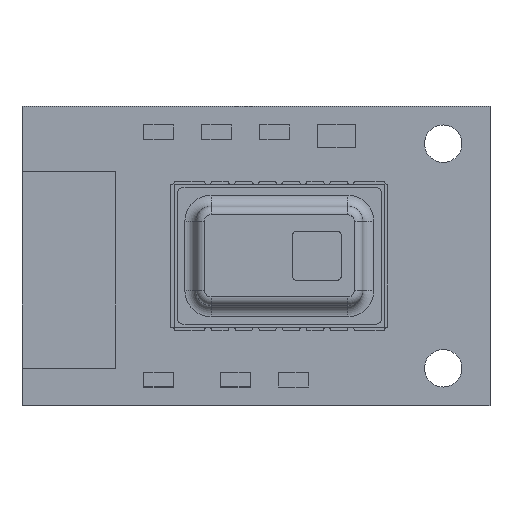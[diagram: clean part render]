
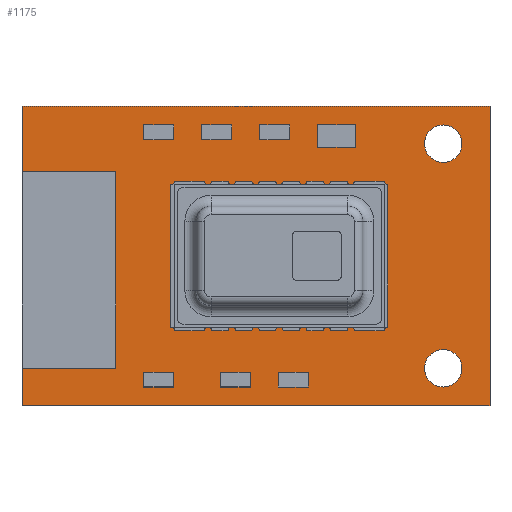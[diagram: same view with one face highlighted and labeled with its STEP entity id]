
A CAD part, top view. The second image highlights one B-rep face of the part: STEP entity #1175.
In plain terms, the highlighted planar face has unit normal (0, 0, 1).
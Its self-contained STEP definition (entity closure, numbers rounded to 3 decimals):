
#29 = AXIS2_PLACEMENT_3D ( 'NONE', #184, #4009, #138 ) ;
#33 = LINE ( 'NONE', #941, #842 ) ;
#137 = DIRECTION ( 'NONE',  ( 1., 0., 0. ) ) ;
#138 = DIRECTION ( 'NONE',  ( 1., 0., 0. ) ) ;
#184 = CARTESIAN_POINT ( 'NONE',  ( 10., -6., 1. ) ) ;
#478 = CARTESIAN_POINT ( 'NONE',  ( 12.5, 8., 1. ) ) ;
#545 = ORIENTED_EDGE ( 'NONE', *, *, #4470, .T. ) ;
#553 = DIRECTION ( 'NONE',  ( 1., 0., 0. ) ) ;
#606 = DIRECTION ( 'NONE',  ( 1., 0., 0. ) ) ;
#621 = FACE_OUTER_BOUND ( 'NONE', #4861, .T. ) ;
#714 = ORIENTED_EDGE ( 'NONE', *, *, #1612, .F. ) ;
#734 = CARTESIAN_POINT ( 'NONE',  ( -12.5, -8., 1. ) ) ;
#739 = EDGE_LOOP ( 'NONE', ( #2636, #545 ) ) ;
#829 = AXIS2_PLACEMENT_3D ( 'NONE', #3438, #4194, #1471 ) ;
#842 = VECTOR ( 'NONE', #137, 1000. ) ;
#882 = CARTESIAN_POINT ( 'NONE',  ( 9., 6., 1. ) ) ;
#941 = CARTESIAN_POINT ( 'NONE',  ( -12.5, -8., 1. ) ) ;
#947 = LINE ( 'NONE', #1574, #2899 ) ;
#1000 = FACE_BOUND ( 'NONE', #739, .T. ) ;
#1162 = ORIENTED_EDGE ( 'NONE', *, *, #4758, .F. ) ;
#1175 = ADVANCED_FACE ( 'NONE', ( #1000, #621, #2834 ), #3279, .T. ) ;
#1189 = LINE ( 'NONE', #3050, #3496 ) ;
#1304 = LINE ( 'NONE', #1692, #2412 ) ;
#1359 = CIRCLE ( 'NONE', #829, 1. ) ;
#1456 = AXIS2_PLACEMENT_3D ( 'NONE', #4892, #2156, #606 ) ;
#1471 = DIRECTION ( 'NONE',  ( 1., 0., 0. ) ) ;
#1493 = CARTESIAN_POINT ( 'NONE',  ( 10., -6., 1. ) ) ;
#1574 = CARTESIAN_POINT ( 'NONE',  ( -12.5, 8., 1. ) ) ;
#1612 = EDGE_CURVE ( 'NONE', #2945, #3654, #1854, .T. ) ;
#1614 = EDGE_CURVE ( 'NONE', #4755, #3293, #33, .T. ) ;
#1692 = CARTESIAN_POINT ( 'NONE',  ( -12.5, 8., 1. ) ) ;
#1854 = CIRCLE ( 'NONE', #1456, 1. ) ;
#1897 = DIRECTION ( 'NONE',  ( 0., 0., -1. ) ) ;
#1908 = CIRCLE ( 'NONE', #29, 1. ) ;
#1938 = EDGE_CURVE ( 'NONE', #3955, #4911, #3933, .T. ) ;
#2073 = DIRECTION ( 'NONE',  ( -1., 0., 0. ) ) ;
#2156 = DIRECTION ( 'NONE',  ( 0., 0., 1. ) ) ;
#2221 = CARTESIAN_POINT ( 'NONE',  ( 9., -6., 1. ) ) ;
#2412 = VECTOR ( 'NONE', #2073, 1000. ) ;
#2636 = ORIENTED_EDGE ( 'NONE', *, *, #1938, .T. ) ;
#2729 = DIRECTION ( 'NONE',  ( 1., 0., 0. ) ) ;
#2755 = VERTEX_POINT ( 'NONE', #478 ) ;
#2834 = FACE_BOUND ( 'NONE', #3829, .T. ) ;
#2899 = VECTOR ( 'NONE', #4289, 1000. ) ;
#2936 = CARTESIAN_POINT ( 'NONE',  ( -12.5, 8., 1. ) ) ;
#2945 = VERTEX_POINT ( 'NONE', #3202 ) ;
#3044 = ORIENTED_EDGE ( 'NONE', *, *, #3716, .T. ) ;
#3050 = CARTESIAN_POINT ( 'NONE',  ( 12.5, 8., 1. ) ) ;
#3202 = CARTESIAN_POINT ( 'NONE',  ( 11., 6., 1. ) ) ;
#3279 = PLANE ( 'NONE',  #3991 ) ;
#3293 = VERTEX_POINT ( 'NONE', #4918 ) ;
#3308 = EDGE_CURVE ( 'NONE', #4669, #4755, #947, .T. ) ;
#3438 = CARTESIAN_POINT ( 'NONE',  ( 10., 6., 1. ) ) ;
#3496 = VECTOR ( 'NONE', #4567, 1000. ) ;
#3583 = EDGE_CURVE ( 'NONE', #2755, #4669, #1304, .T. ) ;
#3654 = VERTEX_POINT ( 'NONE', #882 ) ;
#3677 = ORIENTED_EDGE ( 'NONE', *, *, #1614, .T. ) ;
#3716 = EDGE_CURVE ( 'NONE', #3293, #2755, #1189, .T. ) ;
#3823 = AXIS2_PLACEMENT_3D ( 'NONE', #1493, #1897, #2729 ) ;
#3829 = EDGE_LOOP ( 'NONE', ( #1162, #714 ) ) ;
#3933 = CIRCLE ( 'NONE', #3823, 1. ) ;
#3955 = VERTEX_POINT ( 'NONE', #2221 ) ;
#3991 = AXIS2_PLACEMENT_3D ( 'NONE', #4376, #4428, #553 ) ;
#4009 = DIRECTION ( 'NONE',  ( 0., 0., -1. ) ) ;
#4070 = ORIENTED_EDGE ( 'NONE', *, *, #3583, .T. ) ;
#4171 = ORIENTED_EDGE ( 'NONE', *, *, #3308, .T. ) ;
#4194 = DIRECTION ( 'NONE',  ( 0., 0., 1. ) ) ;
#4289 = DIRECTION ( 'NONE',  ( 0., -1., 0. ) ) ;
#4376 = CARTESIAN_POINT ( 'NONE',  ( 0., 0., 1. ) ) ;
#4428 = DIRECTION ( 'NONE',  ( 0., 0., 1. ) ) ;
#4470 = EDGE_CURVE ( 'NONE', #4911, #3955, #1908, .T. ) ;
#4567 = DIRECTION ( 'NONE',  ( 0., 1., 0. ) ) ;
#4669 = VERTEX_POINT ( 'NONE', #2936 ) ;
#4694 = CARTESIAN_POINT ( 'NONE',  ( 11., -6., 1. ) ) ;
#4755 = VERTEX_POINT ( 'NONE', #734 ) ;
#4758 = EDGE_CURVE ( 'NONE', #3654, #2945, #1359, .T. ) ;
#4861 = EDGE_LOOP ( 'NONE', ( #3044, #4070, #4171, #3677 ) ) ;
#4892 = CARTESIAN_POINT ( 'NONE',  ( 10., 6., 1. ) ) ;
#4911 = VERTEX_POINT ( 'NONE', #4694 ) ;
#4918 = CARTESIAN_POINT ( 'NONE',  ( 12.5, -8., 1. ) ) ;
